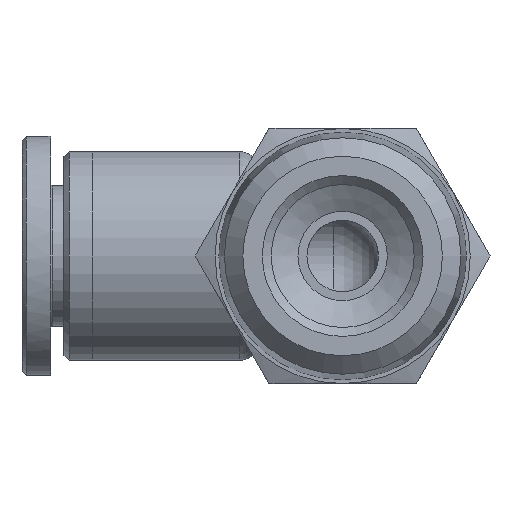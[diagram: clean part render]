
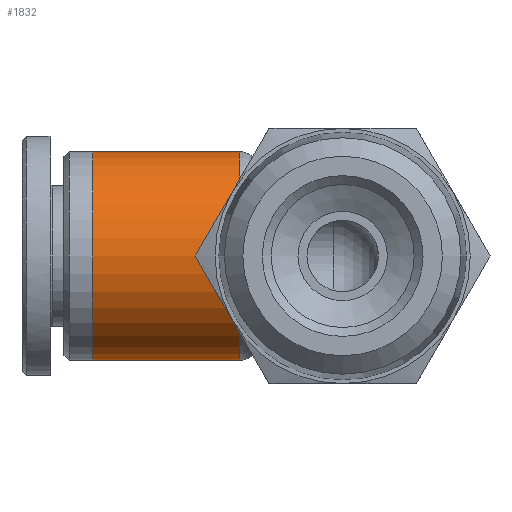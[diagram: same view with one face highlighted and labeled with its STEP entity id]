
A CAD part, front view. The second image highlights one B-rep face of the part: STEP entity #1832.
In plain terms, the highlighted cylindrical face has radius 5.85 mm (diameter 11.7 mm), a full revolution.
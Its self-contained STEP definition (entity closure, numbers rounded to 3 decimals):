
#1798=CARTESIAN_POINT('',(8.235,5.85,0.0));
#1799=VERTEX_POINT('',#1798);
#1800=CARTESIAN_POINT('',(8.235,0.,0.0));
#1801=DIRECTION('',(1.0,0.0,0.0));
#1802=DIRECTION('',(0.0,-1.0,0.0));
#1803=AXIS2_PLACEMENT_3D('',#1800,#1801,#1802);
#1804=CIRCLE('',#1803,5.85);
#1805=EDGE_CURVE('',#1799,#1799,#1804,.T.);
#1813=CARTESIAN_POINT('',(4.3,0.,0.0));
#1814=DIRECTION('',(1.0,0.,0.0));
#1815=DIRECTION('',(0.0,1.0,0.0));
#1816=AXIS2_PLACEMENT_3D('',#1813,#1814,#1815);
#1817=CYLINDRICAL_SURFACE('',#1816,5.85);
#1818=CARTESIAN_POINT('',(0.0,5.85,0.0));
#1819=VERTEX_POINT('',#1818);
#1820=CARTESIAN_POINT('',(0.,0.,0.0));
#1821=DIRECTION('',(1.0,0.0,0.0));
#1822=DIRECTION('',(0.0,1.0,0.0));
#1823=AXIS2_PLACEMENT_3D('',#1820,#1821,#1822);
#1824=CIRCLE('',#1823,5.85);
#1825=EDGE_CURVE('',#1819,#1819,#1824,.T.);
#1826=ORIENTED_EDGE('',*,*,#1825,.T.);
#1827=EDGE_LOOP('',(#1826));
#1828=FACE_OUTER_BOUND('',#1827,.T.);
#1829=ORIENTED_EDGE('',*,*,#1805,.F.);
#1830=EDGE_LOOP('',(#1829));
#1831=FACE_BOUND('',#1830,.T.);
#1832=ADVANCED_FACE('',(#1828,#1831),#1817,.T.);
